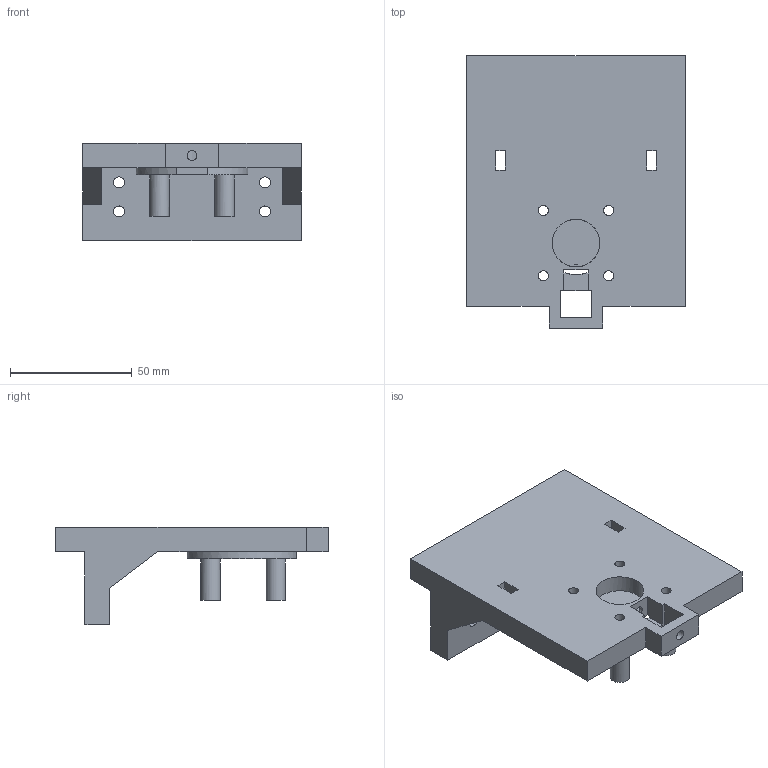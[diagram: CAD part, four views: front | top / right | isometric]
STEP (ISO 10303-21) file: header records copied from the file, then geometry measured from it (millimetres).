
FILE_DESCRIPTION(/* description */ (''),/* implementation_level */ '2;1');
FILE_NAME(/* name */ '02_head_common_rod_guide_assembled.step',/* time_stamp */ '2026-11-14T21:40:00-08:00',/* author */ (''),/* organization */ (''),/* preprocessor_version */ 'ST-DEVELOPER v20.2',/* originating_system */ 'Autodesk Translation Framework v15.17.0.0',/* authorisation */ '');
FILE_SCHEMA (('AUTOMOTIVE_DESIGN { 1 0 10303 214 3 1 1 }'));
Length unit declared in the file: millimetre
Products named in the file (1): 2026-11-14-21-40-00-039
Bounding box: 90 x 112 x 40 mm (x, y, z)
Volume: 123068.3 mm3; surface area: 34884.3 mm2
Topology: 1 solids, 1 shells, 59 faces, 170 edges, 112 vertices
Faces by surface type: plane 42, cylinder 17
Full cylindrical faces by diameter (mm): 4.1 x6, 4.5 x4, 8 x4, 19.6 x1, 26 x1
Entity records: 2056 total; most frequent: CARTESIAN_POINT 376, ORIENTED_EDGE 340, DIRECTION 333, EDGE_CURVE 170, LINE 123, VECTOR 123, VERTEX_POINT 112, AXIS2_PLACEMENT_3D 105
